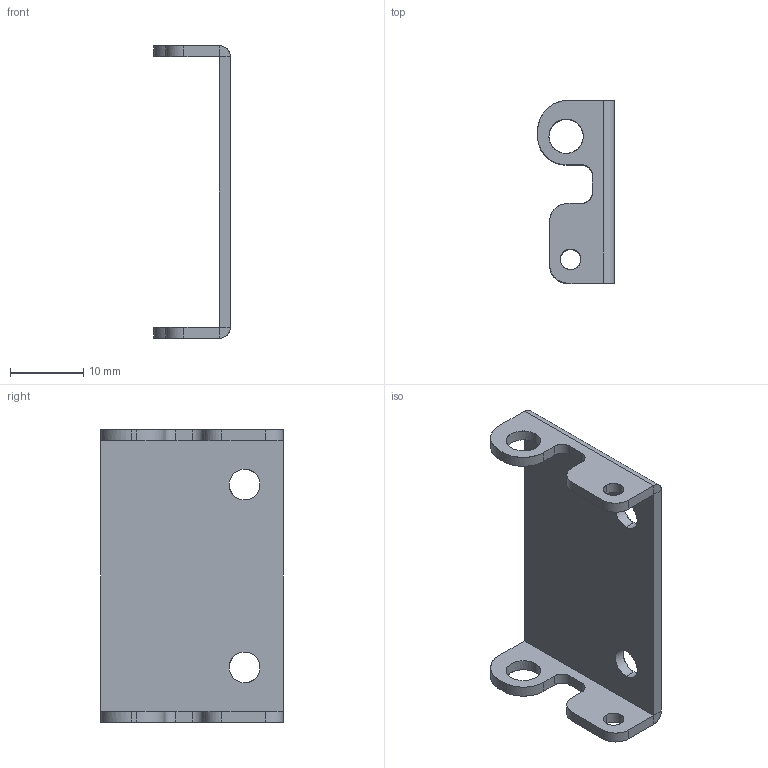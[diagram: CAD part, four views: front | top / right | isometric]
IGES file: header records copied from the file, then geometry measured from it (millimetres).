
Start section: SolidWorks IGES FILE using analytic representation for surfaces
Global section: file name: C:\Documents and Settings\lecoutey\Bureau\GP 2013\1086.020.10.IGS; native system: SolidWorks 2004 by SolidWorks Corporation; preprocessor: Version 5.3; author: lecoutey; date: 050329.161908; units: millimetre
Bounding box: 10.5 x 25 x 40 mm (x, y, z)
Surface area: 2824.1 mm2 (no closed solid volume)
Topology: 0 solids, 0 shells, 52 faces, 816 edges, 816 vertices
Faces by surface type: revolution 26, bspline 26
